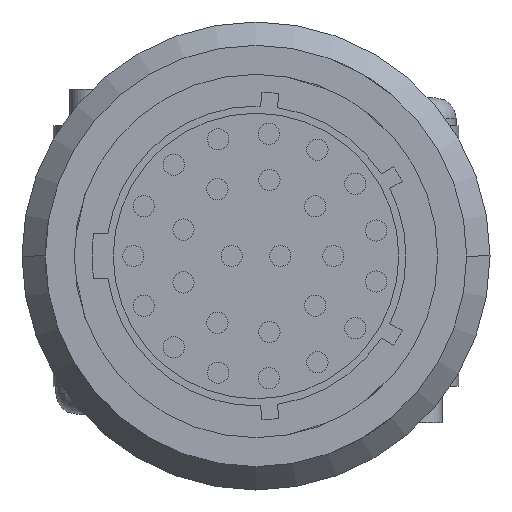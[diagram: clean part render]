
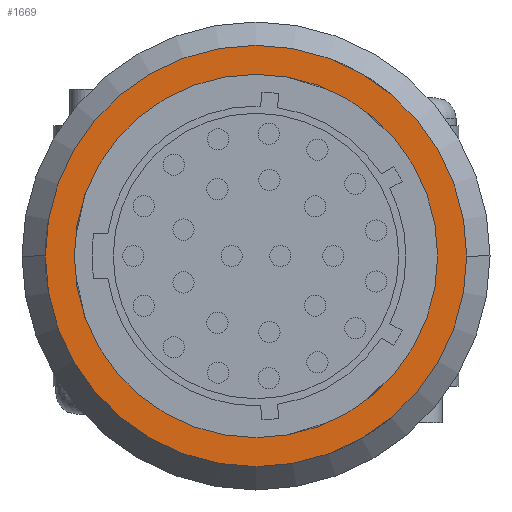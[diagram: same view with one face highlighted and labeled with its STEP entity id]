
A CAD part, left-side view. The second image highlights one B-rep face of the part: STEP entity #1669.
In plain terms, the highlighted planar face has unit normal (-1, 0, 0).
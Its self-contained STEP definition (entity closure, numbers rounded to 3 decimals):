
#221 = EDGE_CURVE ( 'NONE', #4042, #1584, #2417, .T. ) ;
#431 = FACE_BOUND ( 'NONE', #2944, .T. ) ;
#459 = CARTESIAN_POINT ( 'NONE',  ( 0., -14.9, 0. ) ) ;
#948 = DIRECTION ( 'NONE',  ( 1., 0., 0. ) ) ;
#1121 = ORIENTED_EDGE ( 'NONE', *, *, #3293, .T. ) ;
#1402 = CIRCLE ( 'NONE', #4837, 12.85 ) ;
#1471 = CARTESIAN_POINT ( 'NONE',  ( 0., 0., 0. ) ) ;
#1584 = VERTEX_POINT ( 'NONE', #7466 ) ;
#1669 = ADVANCED_FACE ( 'NONE', ( #431, #4545 ), #9949, .F. ) ;
#2091 = CARTESIAN_POINT ( 'NONE',  ( 0., 0., -12.85 ) ) ;
#2246 = DIRECTION ( 'NONE',  ( 0., 0., 1. ) ) ;
#2314 = ORIENTED_EDGE ( 'NONE', *, *, #3041, .F. ) ;
#2417 = CIRCLE ( 'NONE', #9409, 12.85 ) ;
#2456 = ORIENTED_EDGE ( 'NONE', *, *, #8016, .T. ) ;
#2659 = EDGE_LOOP ( 'NONE', ( #2456, #1121 ) ) ;
#2944 = EDGE_LOOP ( 'NONE', ( #2314, #3793 ) ) ;
#3041 = EDGE_CURVE ( 'NONE', #1584, #4042, #1402, .T. ) ;
#3099 = CIRCLE ( 'NONE', #6232, 14.9 ) ;
#3293 = EDGE_CURVE ( 'NONE', #8578, #7985, #3099, .T. ) ;
#3394 = CARTESIAN_POINT ( 'NONE',  ( 0., 0., 0. ) ) ;
#3793 = ORIENTED_EDGE ( 'NONE', *, *, #221, .F. ) ;
#4042 = VERTEX_POINT ( 'NONE', #2091 ) ;
#4194 = DIRECTION ( 'NONE',  ( 0., -1., 0. ) ) ;
#4343 = DIRECTION ( 'NONE',  ( -1., 0., 0. ) ) ;
#4545 = FACE_OUTER_BOUND ( 'NONE', #2659, .T. ) ;
#4837 = AXIS2_PLACEMENT_3D ( 'NONE', #1471, #6935, #2246 ) ;
#6232 = AXIS2_PLACEMENT_3D ( 'NONE', #3394, #8849, #4194 ) ;
#6331 = DIRECTION ( 'NONE',  ( 0., 0., 1. ) ) ;
#6530 = AXIS2_PLACEMENT_3D ( 'NONE', #8989, #4343, #9729 ) ;
#6539 = DIRECTION ( 'NONE',  ( -1., 0., 0. ) ) ;
#6723 = DIRECTION ( 'NONE',  ( 0., 1., 0. ) ) ;
#6935 = DIRECTION ( 'NONE',  ( -1., 0., 0. ) ) ;
#7466 = CARTESIAN_POINT ( 'NONE',  ( 0., 0., 12.85 ) ) ;
#7985 = VERTEX_POINT ( 'NONE', #459 ) ;
#8016 = EDGE_CURVE ( 'NONE', #7985, #8578, #8259, .T. ) ;
#8222 = CARTESIAN_POINT ( 'NONE',  ( 0., 14.9, 0. ) ) ;
#8259 = CIRCLE ( 'NONE', #6530, 14.9 ) ;
#8578 = VERTEX_POINT ( 'NONE', #8222 ) ;
#8849 = DIRECTION ( 'NONE',  ( -1., 0., 0. ) ) ;
#8989 = CARTESIAN_POINT ( 'NONE',  ( 0., 0., 0. ) ) ;
#9106 = AXIS2_PLACEMENT_3D ( 'NONE', #9312, #948, #6723 ) ;
#9312 = CARTESIAN_POINT ( 'NONE',  ( 0., 0., 0. ) ) ;
#9400 = CARTESIAN_POINT ( 'NONE',  ( 0., 0., 0. ) ) ;
#9409 = AXIS2_PLACEMENT_3D ( 'NONE', #9400, #6539, #6331 ) ;
#9729 = DIRECTION ( 'NONE',  ( 0., -1., 0. ) ) ;
#9949 = PLANE ( 'NONE',  #9106 ) ;
